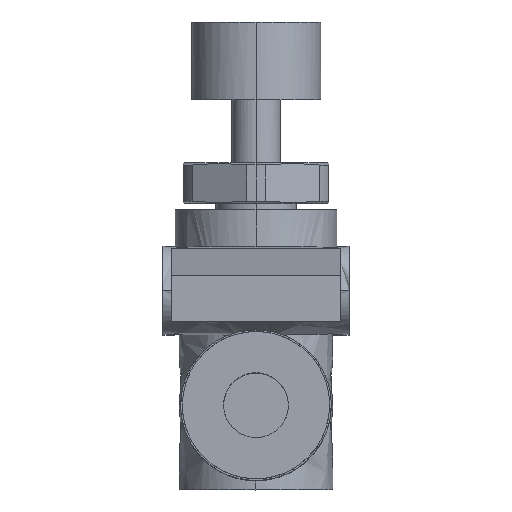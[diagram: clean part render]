
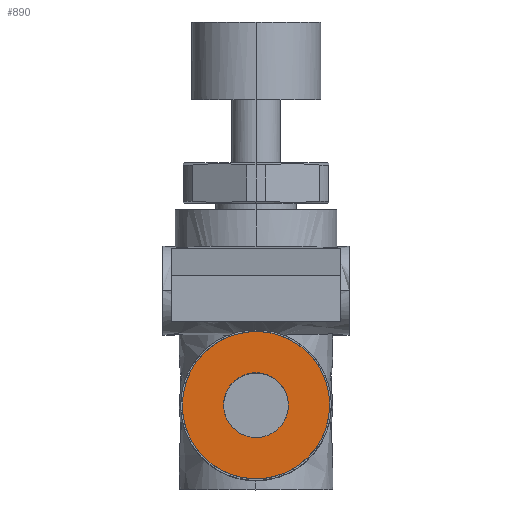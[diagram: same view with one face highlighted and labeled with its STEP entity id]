
A CAD part, top view. The second image highlights one B-rep face of the part: STEP entity #890.
In plain terms, the highlighted planar face has unit normal (0, 0, 1).
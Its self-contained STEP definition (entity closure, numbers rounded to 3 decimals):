
#3 = CARTESIAN_POINT ( 'NONE',  ( -1.227, 1.602, 20.35 ) ) ;
#75 = EDGE_LOOP ( 'NONE', ( #322, #714 ) ) ;
#164 = CARTESIAN_POINT ( 'NONE',  ( -1.949, -0.521, 20.35 ) ) ;
#190 = CARTESIAN_POINT ( 'NONE',  ( -0.265, -2., 20.35 ) ) ;
#266 = CARTESIAN_POINT ( 'NONE',  ( 1.949, 0.521, 20.35 ) ) ;
#288 = CARTESIAN_POINT ( 'NONE',  ( 1.746, 1.01, 20.35 ) ) ;
#322 = ORIENTED_EDGE ( 'NONE', *, *, #1356, .T. ) ;
#474 = CARTESIAN_POINT ( 'NONE',  ( 1.01, -1.746, 20.35 ) ) ;
#608 = CARTESIAN_POINT ( 'NONE',  ( -2., 0.265, 20.35 ) ) ;
#628 = CARTESIAN_POINT ( 'NONE',  ( 0.265, 2., 20.35 ) ) ;
#680 = B_SPLINE_CURVE_WITH_KNOTS ( 'NONE', 3,
 ( #1400, #1773, #3601, #3319, #1709, #3232, #474, #2957, #1140, #190, #1378, #3579, #3858, #3902, #1691, #164, #2636, #833 ),
 .UNSPECIFIED., .F., .F.,
 ( 4, 2, 2, 2, 2, 2, 2, 2, 4 ),
 ( 0.5, 0.563, 0.625, 0.688, 0.75, 0.813, 0.875, 0.938, 1. ),
 .UNSPECIFIED. ) ;
#700 = CARTESIAN_POINT ( 'NONE',  ( -4.55, 9.1, 20.35 ) ) ;
#713 = EDGE_CURVE ( 'NONE', #752, #1801, #2847, .T. ) ;
#714 = ORIENTED_EDGE ( 'NONE', *, *, #3333, .T. ) ;
#752 = VERTEX_POINT ( 'NONE', #1043 ) ;
#768 = EDGE_CURVE ( 'NONE', #1801, #752, #1226, .T. ) ;
#833 = CARTESIAN_POINT ( 'NONE',  ( -2., 0., 20.35 ) ) ;
#841 = FACE_OUTER_BOUND ( 'NONE', #1243, .T. ) ;
#850 = CARTESIAN_POINT ( 'NONE',  ( 4.55, 0., 20.35 ) ) ;
#890 = ADVANCED_FACE ( 'NONE', ( #2384, #841 ), #2733, .T. ) ;
#891 = CARTESIAN_POINT ( 'NONE',  ( 0.521, 1.949, 20.35 ) ) ;
#932 = CARTESIAN_POINT ( 'NONE',  ( 1.602, 1.227, 20.35 ) ) ;
#956 = CARTESIAN_POINT ( 'NONE',  ( -0.265, 2., 20.35 ) ) ;
#1043 = CARTESIAN_POINT ( 'NONE',  ( -4.55, 0., 20.35 ) ) ;
#1140 = CARTESIAN_POINT ( 'NONE',  ( 0.265, -2., 20.35 ) ) ;
#1189 = DIRECTION ( 'NONE',  ( 0., 0., 1. ) ) ;
#1226 =( BOUNDED_CURVE ( )  B_SPLINE_CURVE ( 3, ( #3564, #3845, #2966, #2361 ),
 .UNSPECIFIED., .F., .T. ) 
 B_SPLINE_CURVE_WITH_KNOTS ( ( 4, 4 ),
 ( 0.5, 1. ),
 .UNSPECIFIED. ) 
 CURVE ( )  GEOMETRIC_REPRESENTATION_ITEM ( )  RATIONAL_B_SPLINE_CURVE ( ( 1., 0.333, 0.333, 1. ) ) 
 REPRESENTATION_ITEM ( '' )  );
#1227 = CARTESIAN_POINT ( 'NONE',  ( 2., 0., 20.35 ) ) ;
#1243 = EDGE_LOOP ( 'NONE', ( #2986, #2355 ) ) ;
#1309 = CARTESIAN_POINT ( 'NONE',  ( -4.55, 0., 20.35 ) ) ;
#1321 = CARTESIAN_POINT ( 'NONE',  ( -2., 0., 20.35 ) ) ;
#1356 = EDGE_CURVE ( 'NONE', #1734, #3536, #2344, .T. ) ;
#1378 = CARTESIAN_POINT ( 'NONE',  ( -0.521, -1.949, 20.35 ) ) ;
#1400 = CARTESIAN_POINT ( 'NONE',  ( 2., 0., 20.35 ) ) ;
#1691 = CARTESIAN_POINT ( 'NONE',  ( -1.746, -1.01, 20.35 ) ) ;
#1709 = CARTESIAN_POINT ( 'NONE',  ( 1.601, -1.227, 20.35 ) ) ;
#1734 = VERTEX_POINT ( 'NONE', #1321 ) ;
#1773 = CARTESIAN_POINT ( 'NONE',  ( 2., -0.265, 20.35 ) ) ;
#1791 = AXIS2_PLACEMENT_3D ( 'NONE', #3950, #1189, #2424 ) ;
#1801 = VERTEX_POINT ( 'NONE', #850 ) ;
#1823 = CARTESIAN_POINT ( 'NONE',  ( -1.601, 1.227, 20.35 ) ) ;
#1843 = CARTESIAN_POINT ( 'NONE',  ( -0.521, 1.949, 20.35 ) ) ;
#2047 = CARTESIAN_POINT ( 'NONE',  ( 2., 0., 20.35 ) ) ;
#2130 = CARTESIAN_POINT ( 'NONE',  ( 1.227, 1.601, 20.35 ) ) ;
#2209 = CARTESIAN_POINT ( 'NONE',  ( 2., 0.265, 20.35 ) ) ;
#2344 = B_SPLINE_CURVE_WITH_KNOTS ( 'NONE', 3,
 ( #3052, #608, #2775, #3693, #1823, #3, #3954, #1843, #956, #628, #891, #3069, #2130, #932, #288, #266, #2209, #1227 ),
 .UNSPECIFIED., .F., .F.,
 ( 4, 2, 2, 2, 2, 2, 2, 2, 4 ),
 ( 0., 0.063, 0.125, 0.188, 0.25, 0.313, 0.375, 0.438, 0.5 ),
 .UNSPECIFIED. ) ;
#2355 = ORIENTED_EDGE ( 'NONE', *, *, #768, .F. ) ;
#2361 = CARTESIAN_POINT ( 'NONE',  ( -4.55, 0., 20.35 ) ) ;
#2384 = FACE_BOUND ( 'NONE', #75, .T. ) ;
#2424 = DIRECTION ( 'NONE',  ( 1., 0., 0. ) ) ;
#2541 = CARTESIAN_POINT ( 'NONE',  ( 4.55, 0., 20.35 ) ) ;
#2636 = CARTESIAN_POINT ( 'NONE',  ( -2., -0.265, 20.35 ) ) ;
#2733 = PLANE ( 'NONE',  #1791 ) ;
#2775 = CARTESIAN_POINT ( 'NONE',  ( -1.949, 0.521, 20.35 ) ) ;
#2847 =( BOUNDED_CURVE ( )  B_SPLINE_CURVE ( 3, ( #1309, #700, #3484, #2541 ),
 .UNSPECIFIED., .F., .T. ) 
 B_SPLINE_CURVE_WITH_KNOTS ( ( 4, 4 ),
 ( 0., 0.5 ),
 .UNSPECIFIED. ) 
 CURVE ( )  GEOMETRIC_REPRESENTATION_ITEM ( )  RATIONAL_B_SPLINE_CURVE ( ( 1., 0.333, 0.333, 1. ) ) 
 REPRESENTATION_ITEM ( '' )  );
#2957 = CARTESIAN_POINT ( 'NONE',  ( 0.521, -1.949, 20.35 ) ) ;
#2966 = CARTESIAN_POINT ( 'NONE',  ( -4.55, -9.1, 20.35 ) ) ;
#2986 = ORIENTED_EDGE ( 'NONE', *, *, #713, .F. ) ;
#3052 = CARTESIAN_POINT ( 'NONE',  ( -2., 0., 20.35 ) ) ;
#3069 = CARTESIAN_POINT ( 'NONE',  ( 1.01, 1.746, 20.35 ) ) ;
#3232 = CARTESIAN_POINT ( 'NONE',  ( 1.227, -1.602, 20.35 ) ) ;
#3319 = CARTESIAN_POINT ( 'NONE',  ( 1.746, -1.01, 20.35 ) ) ;
#3333 = EDGE_CURVE ( 'NONE', #3536, #1734, #680, .T. ) ;
#3484 = CARTESIAN_POINT ( 'NONE',  ( 4.55, 9.1, 20.35 ) ) ;
#3536 = VERTEX_POINT ( 'NONE', #2047 ) ;
#3564 = CARTESIAN_POINT ( 'NONE',  ( 4.55, 0., 20.35 ) ) ;
#3579 = CARTESIAN_POINT ( 'NONE',  ( -1.01, -1.746, 20.35 ) ) ;
#3601 = CARTESIAN_POINT ( 'NONE',  ( 1.949, -0.521, 20.35 ) ) ;
#3693 = CARTESIAN_POINT ( 'NONE',  ( -1.746, 1.01, 20.35 ) ) ;
#3845 = CARTESIAN_POINT ( 'NONE',  ( 4.55, -9.1, 20.35 ) ) ;
#3858 = CARTESIAN_POINT ( 'NONE',  ( -1.227, -1.601, 20.35 ) ) ;
#3902 = CARTESIAN_POINT ( 'NONE',  ( -1.602, -1.227, 20.35 ) ) ;
#3950 = CARTESIAN_POINT ( 'NONE',  ( -4.605, -4.605, 20.35 ) ) ;
#3954 = CARTESIAN_POINT ( 'NONE',  ( -1.01, 1.746, 20.35 ) ) ;
